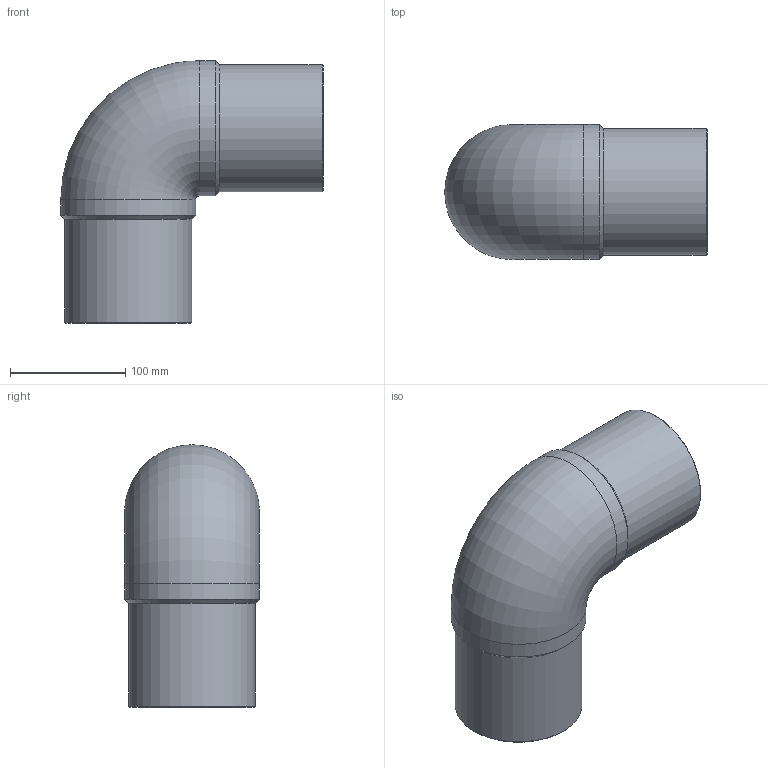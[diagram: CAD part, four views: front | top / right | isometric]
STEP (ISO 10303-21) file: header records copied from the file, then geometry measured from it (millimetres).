
FILE_DESCRIPTION(/* description */ ('Unknown'),/* implementation_level */ '2;1');
FILE_NAME(/* name */ 'G9P110H',/* time_stamp */ '2021-11-15T16:39:50+01:00',/* author */ ('Unknown'),/* organization */ ('Unknown'),/* preprocessor_version */ 'ST-DEVELOPER v16.7',/* originating_system */ 'Solid Edge',/* authorisation */ 'Unknown');
FILE_SCHEMA (('AUTOMOTIVE_DESIGN {1 0 10303 214 3 1 1}'));
Length unit declared in the file: millimetre
Products named in the file (1): G9P110H
Bounding box: 227.5 x 117 x 227.5 mm (x, y, z)
Volume: 1578164.5 mm3; surface area: 198426.4 mm2
Topology: 1 solids, 1 shells, 14 faces, 34 edges, 22 vertices
Faces by surface type: cylinder 6, cone 4, plane 2, torus 2
Full cylindrical faces by diameter (mm): 79.8 x2, 110 x2, 117 x2
Entity records: 376 total; most frequent: CARTESIAN_POINT 76, DIRECTION 60, ORIENTED_EDGE 38, AXIS2_PLACEMENT_3D 30, EDGE_LOOP 27, FACE_BOUND 27, EDGE_CURVE 19, VERTEX_POINT 18
